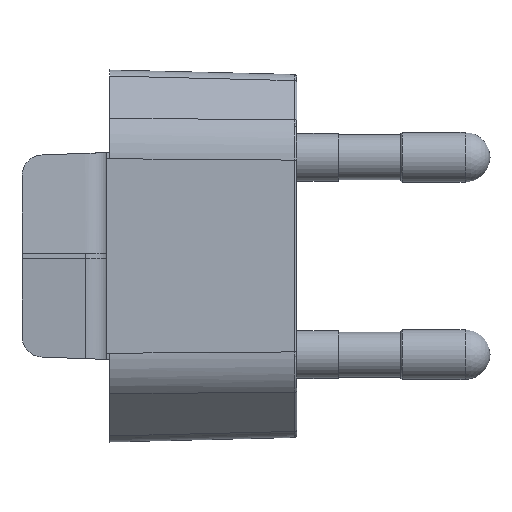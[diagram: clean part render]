
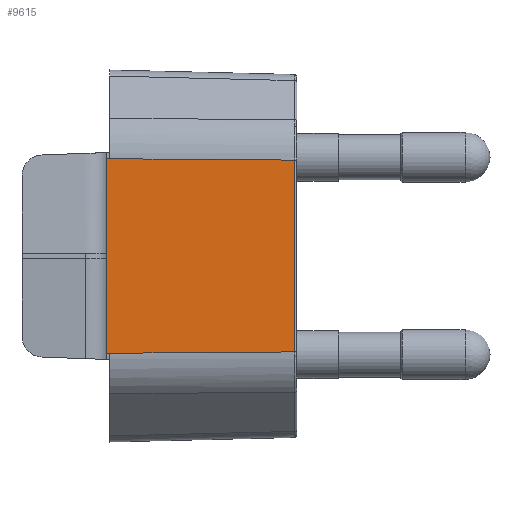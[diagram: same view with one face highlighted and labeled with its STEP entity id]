
A CAD part, left-side view. The second image highlights one B-rep face of the part: STEP entity #9615.
In plain terms, the highlighted planar face has unit normal (-1, -0.018, 0).
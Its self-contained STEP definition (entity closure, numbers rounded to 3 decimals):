
#615=FACE_OUTER_BOUND('',#1150,.T.);
#1150=EDGE_LOOP('',(#6418,#6419,#6420,#6421,#6422,#6423));
#1763=LINE('',#13720,#2870);
#1776=LINE('',#13750,#2883);
#1777=LINE('',#13752,#2884);
#1778=LINE('',#13753,#2885);
#1779=LINE('',#13755,#2886);
#1780=LINE('',#13756,#2887);
#2870=VECTOR('',#11013,18.721);
#2883=VECTOR('',#11032,18.464);
#2884=VECTOR('',#11033,17.807);
#2885=VECTOR('',#11034,0.35);
#2886=VECTOR('',#11035,0.35);
#2887=VECTOR('',#11036,17.807);
#3977=VERTEX_POINT('',#13718);
#3978=VERTEX_POINT('',#13719);
#3991=VERTEX_POINT('',#13748);
#3992=VERTEX_POINT('',#13749);
#3993=VERTEX_POINT('',#13751);
#3994=VERTEX_POINT('',#13754);
#4940=EDGE_CURVE('',#3977,#3978,#1763,.T.);
#4955=EDGE_CURVE('',#3991,#3992,#1776,.T.);
#4956=EDGE_CURVE('',#3991,#3993,#1777,.T.);
#4957=EDGE_CURVE('',#3993,#3977,#1778,.T.);
#4958=EDGE_CURVE('',#3978,#3994,#1779,.T.);
#4959=EDGE_CURVE('',#3992,#3994,#1780,.T.);
#6418=ORIENTED_EDGE('',*,*,#4955,.F.);
#6419=ORIENTED_EDGE('',*,*,#4956,.T.);
#6420=ORIENTED_EDGE('',*,*,#4957,.T.);
#6421=ORIENTED_EDGE('',*,*,#4940,.T.);
#6422=ORIENTED_EDGE('',*,*,#4958,.T.);
#6423=ORIENTED_EDGE('',*,*,#4959,.F.);
#9257=PLANE('',#10161);
#9615=ADVANCED_FACE('',(#615),#9257,.T.);
#10161=AXIS2_PLACEMENT_3D('',#13747,#11030,#11031);
#11013=DIRECTION('',(0.,0.,-1.));
#11030=DIRECTION('center_axis',(-1.,-0.017,
0.));
#11031=DIRECTION('ref_axis',(0.017,-1.,0.));
#11032=DIRECTION('',(0.,0.,-1.));
#11033=DIRECTION('',(-0.017,1.,0.007));
#11034=DIRECTION('',(-0.017,1.,0.));
#11035=DIRECTION('',(0.017,-1.,0.));
#11036=DIRECTION('',(-0.017,1.,-0.007));
#13718=CARTESIAN_POINT('',(-21.106,-12.7,9.36));
#13719=CARTESIAN_POINT('',(-21.106,-12.7,-9.36));
#13720=CARTESIAN_POINT('',(-21.106,-12.7,-24.329));
#13747=CARTESIAN_POINT('Origin',(-21.1,-13.05,-12.345));
#13748=CARTESIAN_POINT('',(-20.789,-30.853,9.232));
#13749=CARTESIAN_POINT('',(-20.789,-30.853,-9.232));
#13750=CARTESIAN_POINT('',(-20.789,-30.853,9.483));
#13751=CARTESIAN_POINT('',(-21.1,-13.05,9.361));
#13752=CARTESIAN_POINT('',(-20.789,-30.853,9.232));
#13753=CARTESIAN_POINT('',(-21.1,-13.05,9.361));
#13754=CARTESIAN_POINT('',(-21.1,-13.05,-9.36));
#13755=CARTESIAN_POINT('',(-21.106,-12.7,-9.36));
#13756=CARTESIAN_POINT('',(-21.848,29.784,-9.67));
